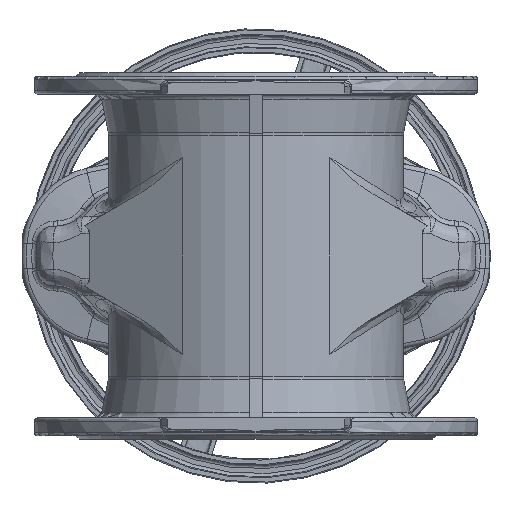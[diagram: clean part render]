
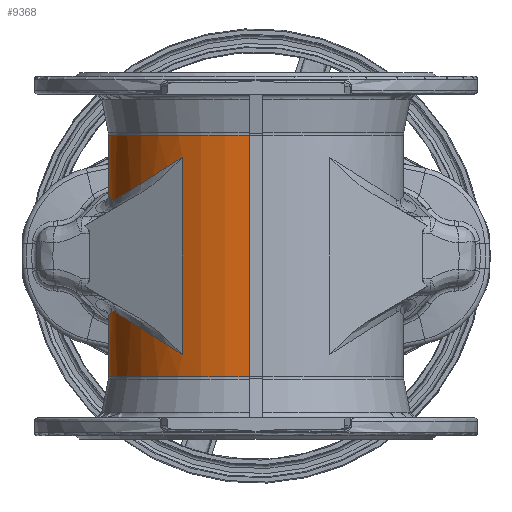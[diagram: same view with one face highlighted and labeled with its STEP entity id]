
A CAD part, front view. The second image highlights one B-rep face of the part: STEP entity #9368.
In plain terms, the highlighted cylindrical face has radius 133 mm (diameter 266 mm), a partial arc.
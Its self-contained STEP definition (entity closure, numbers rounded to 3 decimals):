
#4024 = EDGE_CURVE ( 'NONE', #5729, #5759, #12102, .T. ) ;
#4038 = EDGE_CURVE ( 'NONE', #5832, #5854, #8940, .T. ) ;
#4078 = EDGE_CURVE ( 'NONE', #5759, #5794, #12129, .T. ) ;
#4084 = EDGE_CURVE ( 'NONE', #5669, #5815, #9012, .T. ) ;
#4092 = EDGE_CURVE ( 'NONE', #5794, #5832, #12136, .T. ) ;
#4095 = EDGE_CURVE ( 'NONE', #5669, #5779, #9037, .T. ) ;
#4122 = EDGE_CURVE ( 'NONE', #5850, #5849, #12147, .T. ) ;
#4124 = EDGE_CURVE ( 'NONE', #5849, #5854, #12149, .T. ) ;
#4125 = EDGE_CURVE ( 'NONE', #5762, #5779, #9090, .T. ) ;
#4183 = EDGE_CURVE ( 'NONE', #5762, #5850, #12176, .T. ) ;
#4196 = EDGE_CURVE ( 'NONE', #5729, #5670, #9213, .T. ) ;
#4262 = EDGE_CURVE ( 'NONE', #5815, #5670, #40341, .T. ) ;
#5575 = ORIENTED_EDGE ( 'NONE', *, *, #4084, .T. ) ;
#5586 = ORIENTED_EDGE ( 'NONE', *, *, #4095, .F. ) ;
#5594 = ORIENTED_EDGE ( 'NONE', *, *, #4196, .F. ) ;
#5610 = ORIENTED_EDGE ( 'NONE', *, *, #4024, .T. ) ;
#5620 = ORIENTED_EDGE ( 'NONE', *, *, #4262, .T. ) ;
#5669 = VERTEX_POINT ( 'NONE', #30828 ) ;
#5670 = VERTEX_POINT ( 'NONE', #30860 ) ;
#5729 = VERTEX_POINT ( 'NONE', #41520 ) ;
#5759 = VERTEX_POINT ( 'NONE', #41639 ) ;
#5762 = VERTEX_POINT ( 'NONE', #41638 ) ;
#5779 = VERTEX_POINT ( 'NONE', #41803 ) ;
#5794 = VERTEX_POINT ( 'NONE', #41868 ) ;
#5815 = VERTEX_POINT ( 'NONE', #41972 ) ;
#5832 = VERTEX_POINT ( 'NONE', #42015 ) ;
#5849 = VERTEX_POINT ( 'NONE', #42140 ) ;
#5850 = VERTEX_POINT ( 'NONE', #42173 ) ;
#5854 = VERTEX_POINT ( 'NONE', #42175 ) ;
#8940 = LINE ( 'NONE', #10697, #8942 ) ;
#8942 = VECTOR ( 'NONE', #10698, 1000. ) ;
#9012 = LINE ( 'NONE', #10918, #9018 ) ;
#9018 = VECTOR ( 'NONE', #10920, 1000. ) ;
#9037 = CIRCLE ( 'NONE', #24491, 133. ) ;
#9090 = LINE ( 'NONE', #11127, #9095 ) ;
#9095 = VECTOR ( 'NONE', #11126, 1000. ) ;
#9213 = LINE ( 'NONE', #11470, #9226 ) ;
#9226 = VECTOR ( 'NONE', #11481, 1000. ) ;
#9368 = ADVANCED_FACE ( 'NONE', ( #40857 ), #40859, .T. ) ;
#10632 = CARTESIAN_POINT ( 'NONE',  ( -149.036, 58.255, 63.787 ) ) ;
#10638 = CARTESIAN_POINT ( 'NONE',  ( -94.883, 128.851, 75.645 ) ) ;
#10640 = CARTESIAN_POINT ( 'NONE',  ( -6., 132.865, 77.968 ) ) ;
#10641 = CARTESIAN_POINT ( 'NONE',  ( -129.881, -28.633, 50.842 ) ) ;
#10697 = CARTESIAN_POINT ( 'NONE',  ( -66.5, -115.181, 0. ) ) ;
#10698 = DIRECTION ( 'NONE',  ( 0., 0., -1. ) ) ;
#10885 = CARTESIAN_POINT ( 'NONE',  ( -129.44, -30.633, 50.544 ) ) ;
#10889 = CARTESIAN_POINT ( 'NONE',  ( -129.881, -28.633, 50.842 ) ) ;
#10891 = CARTESIAN_POINT ( 'NONE',  ( -128.954, -32.622, 50.363 ) ) ;
#10892 = CARTESIAN_POINT ( 'NONE',  ( -128.155, -35.585, 50.33 ) ) ;
#10893 = CARTESIAN_POINT ( 'NONE',  ( -127.878, -36.57, 50.359 ) ) ;
#10894 = CARTESIAN_POINT ( 'NONE',  ( -127.3, -38.534, 50.518 ) ) ;
#10895 = CARTESIAN_POINT ( 'NONE',  ( -126.999, -39.513, 50.648 ) ) ;
#10896 = CARTESIAN_POINT ( 'NONE',  ( -126.687, -40.488, 50.844 ) ) ;
#10918 = CARTESIAN_POINT ( 'NONE',  ( -6., -132.865, 0. ) ) ;
#10920 = DIRECTION ( 'NONE',  ( 0., 0., 1. ) ) ;
#10946 = CARTESIAN_POINT ( 'NONE',  ( -126.687, -40.488, 50.844 ) ) ;
#10947 = CARTESIAN_POINT ( 'NONE',  ( -116.496, -72.376, 57.259 ) ) ;
#10954 = CARTESIAN_POINT ( 'NONE',  ( -95.492, -98.443, 70.48 ) ) ;
#10955 = CARTESIAN_POINT ( 'NONE',  ( -66.5, -115.181, 88.729 ) ) ;
#10959 = CARTESIAN_POINT ( 'NONE',  ( 0., 0., -108.833 ) ) ;
#10960 = DIRECTION ( 'NONE',  ( 0., 0., -1. ) ) ;
#10961 = DIRECTION ( 'NONE',  ( 0., -1., 0. ) ) ;
#11112 = CARTESIAN_POINT ( 'NONE',  ( -128.954, -32.622, -50.363 ) ) ;
#11113 = CARTESIAN_POINT ( 'NONE',  ( -129.44, -30.633, -50.544 ) ) ;
#11114 = CARTESIAN_POINT ( 'NONE',  ( -126.687, -40.488, -50.844 ) ) ;
#11115 = CARTESIAN_POINT ( 'NONE',  ( -129.881, -28.633, -50.842 ) ) ;
#11116 = CARTESIAN_POINT ( 'NONE',  ( -128.155, -35.585, -50.33 ) ) ;
#11117 = CARTESIAN_POINT ( 'NONE',  ( -127.878, -36.57, -50.359 ) ) ;
#11118 = CARTESIAN_POINT ( 'NONE',  ( -127.3, -38.534, -50.518 ) ) ;
#11119 = CARTESIAN_POINT ( 'NONE',  ( -126.999, -39.513, -50.648 ) ) ;
#11120 = CARTESIAN_POINT ( 'NONE',  ( -126.687, -40.488, -50.844 ) ) ;
#11121 = CARTESIAN_POINT ( 'NONE',  ( -116.496, -72.376, -57.259 ) ) ;
#11126 = DIRECTION ( 'NONE',  ( 0., 0., -1. ) ) ;
#11127 = CARTESIAN_POINT ( 'NONE',  ( -6., 132.865, 0. ) ) ;
#11128 = CARTESIAN_POINT ( 'NONE',  ( -95.492, -98.443, -70.48 ) ) ;
#11129 = CARTESIAN_POINT ( 'NONE',  ( -66.5, -115.181, -88.729 ) ) ;
#11417 = CARTESIAN_POINT ( 'NONE',  ( -6., 132.865, -77.968 ) ) ;
#11419 = CARTESIAN_POINT ( 'NONE',  ( -94.883, 128.851, -75.645 ) ) ;
#11437 = CARTESIAN_POINT ( 'NONE',  ( -149.036, 58.255, -63.787 ) ) ;
#11438 = CARTESIAN_POINT ( 'NONE',  ( -129.881, -28.633, -50.842 ) ) ;
#11470 = CARTESIAN_POINT ( 'NONE',  ( -6., 132.865, 0. ) ) ;
#11481 = DIRECTION ( 'NONE',  ( 0., 0., 1. ) ) ;
#12102 =( BOUNDED_CURVE ( )  B_SPLINE_CURVE ( 3, ( #10640, #10638, #10632, #10641 ),
 .UNSPECIFIED., .F., .F. ) 
 B_SPLINE_CURVE_WITH_KNOTS ( ( 4, 4 ),
 ( 0.17, 1.913 ),
 .UNSPECIFIED. ) 
 CURVE ( )  GEOMETRIC_REPRESENTATION_ITEM ( )  RATIONAL_B_SPLINE_CURVE ( ( 1., 0.763, 0.763, 1. ) ) 
 REPRESENTATION_ITEM ( '' )  );
#12129 = B_SPLINE_CURVE_WITH_KNOTS ( 'NONE', 3,
 ( #10889, #10885, #10891, #10892, #10893, #10894, #10895, #10896 ),
 .UNSPECIFIED., .F., .F.,
 ( 4, 2, 2, 4 ),
 ( 0., 0.006, 0.009, 0.012 ),
 .UNSPECIFIED. ) ;
#12136 =( BOUNDED_CURVE ( )  B_SPLINE_CURVE ( 3, ( #10946, #10947, #10954, #10955 ),
 .UNSPECIFIED., .F., .F. ) 
 B_SPLINE_CURVE_WITH_KNOTS ( ( 4, 4 ),
 ( 3.451, 4.189 ),
 .UNSPECIFIED. ) 
 CURVE ( )  GEOMETRIC_REPRESENTATION_ITEM ( )  RATIONAL_B_SPLINE_CURVE ( ( 1., 0.955, 0.955, 1. ) ) 
 REPRESENTATION_ITEM ( '' )  );
#12147 = B_SPLINE_CURVE_WITH_KNOTS ( 'NONE', 3,
 ( #11115, #11113, #11112, #11116, #11117, #11118, #11119, #11120 ),
 .UNSPECIFIED., .F., .F.,
 ( 4, 2, 2, 4 ),
 ( 0., 0.006, 0.009, 0.012 ),
 .UNSPECIFIED. ) ;
#12149 =( BOUNDED_CURVE ( )  B_SPLINE_CURVE ( 3, ( #11114, #11121, #11128, #11129 ),
 .UNSPECIFIED., .F., .F. ) 
 B_SPLINE_CURVE_WITH_KNOTS ( ( 4, 4 ),
 ( 3.451, 4.189 ),
 .UNSPECIFIED. ) 
 CURVE ( )  GEOMETRIC_REPRESENTATION_ITEM ( )  RATIONAL_B_SPLINE_CURVE ( ( 1., 0.955, 0.955, 1. ) ) 
 REPRESENTATION_ITEM ( '' )  );
#12176 =( BOUNDED_CURVE ( )  B_SPLINE_CURVE ( 3, ( #11417, #11419, #11437, #11438 ),
 .UNSPECIFIED., .F., .F. ) 
 B_SPLINE_CURVE_WITH_KNOTS ( ( 4, 4 ),
 ( 0.17, 1.913 ),
 .UNSPECIFIED. ) 
 CURVE ( )  GEOMETRIC_REPRESENTATION_ITEM ( )  RATIONAL_B_SPLINE_CURVE ( ( 1., 0.763, 0.763, 1. ) ) 
 REPRESENTATION_ITEM ( '' )  );
#19468 = AXIS2_PLACEMENT_3D ( 'NONE', #21850, #21844, #21842 ) ;
#21842 = DIRECTION ( 'NONE',  ( 0., -1., 0. ) ) ;
#21844 = DIRECTION ( 'NONE',  ( 0., 0., 1. ) ) ;
#21850 = CARTESIAN_POINT ( 'NONE',  ( 0., 0., 0. ) ) ;
#24491 = AXIS2_PLACEMENT_3D ( 'NONE', #10959, #10960, #10961 ) ;
#24632 = AXIS2_PLACEMENT_3D ( 'NONE', #29407, #29409, #29411 ) ;
#29407 = CARTESIAN_POINT ( 'NONE',  ( 0., 0., 108.833 ) ) ;
#29409 = DIRECTION ( 'NONE',  ( 0., 0., -1. ) ) ;
#29411 = DIRECTION ( 'NONE',  ( 0., -1., 0. ) ) ;
#30828 = CARTESIAN_POINT ( 'NONE',  ( -6., -132.865, -108.833 ) ) ;
#30860 = CARTESIAN_POINT ( 'NONE',  ( -6., 132.865, 108.833 ) ) ;
#40341 = CIRCLE ( 'NONE', #24632, 133. ) ;
#40857 = FACE_OUTER_BOUND ( 'NONE', #47549, .T. ) ;
#40859 = CYLINDRICAL_SURFACE ( 'NONE', #19468, 133. ) ;
#41520 = CARTESIAN_POINT ( 'NONE',  ( -6., 132.865, 77.968 ) ) ;
#41638 = CARTESIAN_POINT ( 'NONE',  ( -6., 132.865, -77.968 ) ) ;
#41639 = CARTESIAN_POINT ( 'NONE',  ( -129.881, -28.633, 50.842 ) ) ;
#41803 = CARTESIAN_POINT ( 'NONE',  ( -6., 132.865, -108.833 ) ) ;
#41868 = CARTESIAN_POINT ( 'NONE',  ( -126.687, -40.488, 50.844 ) ) ;
#41972 = CARTESIAN_POINT ( 'NONE',  ( -6., -132.865, 108.833 ) ) ;
#42015 = CARTESIAN_POINT ( 'NONE',  ( -66.5, -115.181, 88.729 ) ) ;
#42140 = CARTESIAN_POINT ( 'NONE',  ( -126.687, -40.488, -50.844 ) ) ;
#42173 = CARTESIAN_POINT ( 'NONE',  ( -129.881, -28.633, -50.842 ) ) ;
#42175 = CARTESIAN_POINT ( 'NONE',  ( -66.5, -115.181, -88.729 ) ) ;
#43993 = ORIENTED_EDGE ( 'NONE', *, *, #4038, .T. ) ;
#44047 = ORIENTED_EDGE ( 'NONE', *, *, #4124, .F. ) ;
#44049 = ORIENTED_EDGE ( 'NONE', *, *, #4125, .T. ) ;
#44050 = ORIENTED_EDGE ( 'NONE', *, *, #4183, .F. ) ;
#44069 = ORIENTED_EDGE ( 'NONE', *, *, #4122, .F. ) ;
#44080 = ORIENTED_EDGE ( 'NONE', *, *, #4078, .T. ) ;
#44081 = ORIENTED_EDGE ( 'NONE', *, *, #4092, .T. ) ;
#47549 = EDGE_LOOP ( 'NONE', ( #43993, #44047, #44069, #44050, #44049, #5586, #5575, #5620, #5594, #5610, #44080, #44081 ) ) ;
